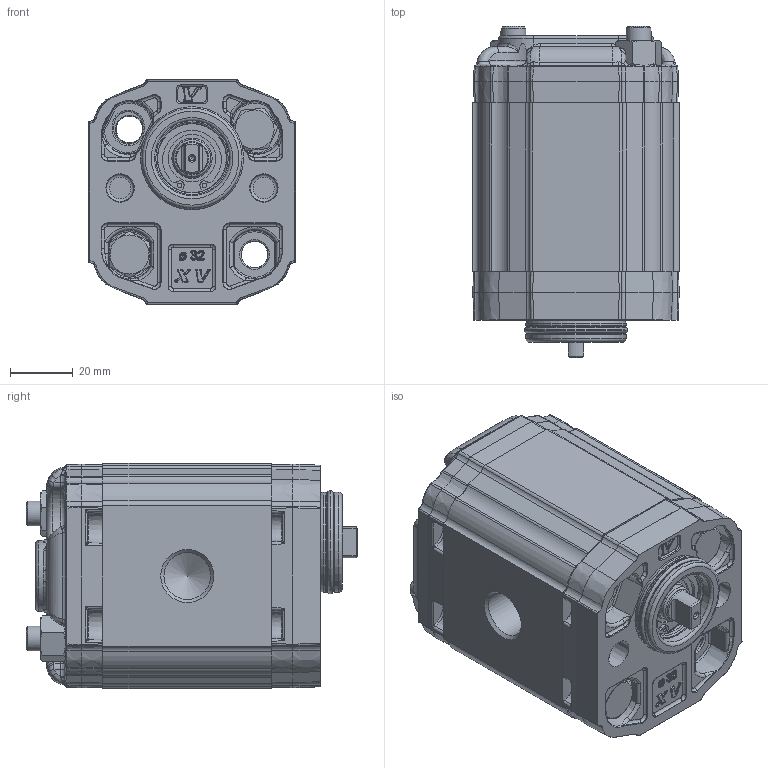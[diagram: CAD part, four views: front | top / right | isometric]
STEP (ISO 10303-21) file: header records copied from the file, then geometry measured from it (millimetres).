
FILE_DESCRIPTION(/* description */ ('Unknown'),/* implementation_level */ '2;1');
FILE_NAME(/* name */ 'X1P2751DBBA',/* time_stamp */ '2026-05-26T18:27:24+02:00',/* author */ ('Unknown'),/* organization */ ('Unknown'),/* preprocessor_version */ 'ST-DEVELOPER v16.7',/* originating_system */ 'Solid Edge',/* authorisation */ 'Unknown');
FILE_SCHEMA (('AUTOMOTIVE_DESIGN {1 0 10303 214 3 1 1}'));
Products named in the file (5): X1P2751DBBA; X1P51; 1D; X1BBH54; XP140-A
Assembly tree (4 placements, depth 2):
  X1P2751DBBA
    X1P51
    1D
    X1BBH54
    XP140-A
Bounding box: 66 x 105.99 x 72 mm (x, y, z)
Volume: 339305.6 mm3; surface area: 66791 mm2
Topology: 4 solids, 5 shells, 2558 faces, 6060 edges, 3556 vertices
Faces by surface type: cylinder 761, bspline 645, plane 553, torus 273, cone 241, sphere 85
Full cylindrical faces by diameter (mm): 1.447 x2, 1.5 x1, 8 x6, 8.5 x3, 9 x2, 10 x1, 10.5 x2, 11.965 x1, 12 x3, 12.923 x1, 14.95 x2, 15.115 x1, 15.181 x1, 19 x1, 20 x1, 22 x2, 22.2 x1, 23 x1, 24 x1, 29.4 x2, 32 x1, 32.96 x1
Entity records: 138333 total; most frequent: CARTESIAN_POINT 65514, ORIENTED_EDGE 11688, DIRECTION 10972, EDGE_CURVE 5844, AXIS2_PLACEMENT_3D 4537, VERTEX_POINT 3508, FACE_BOUND 2790, EDGE_LOOP 2786
